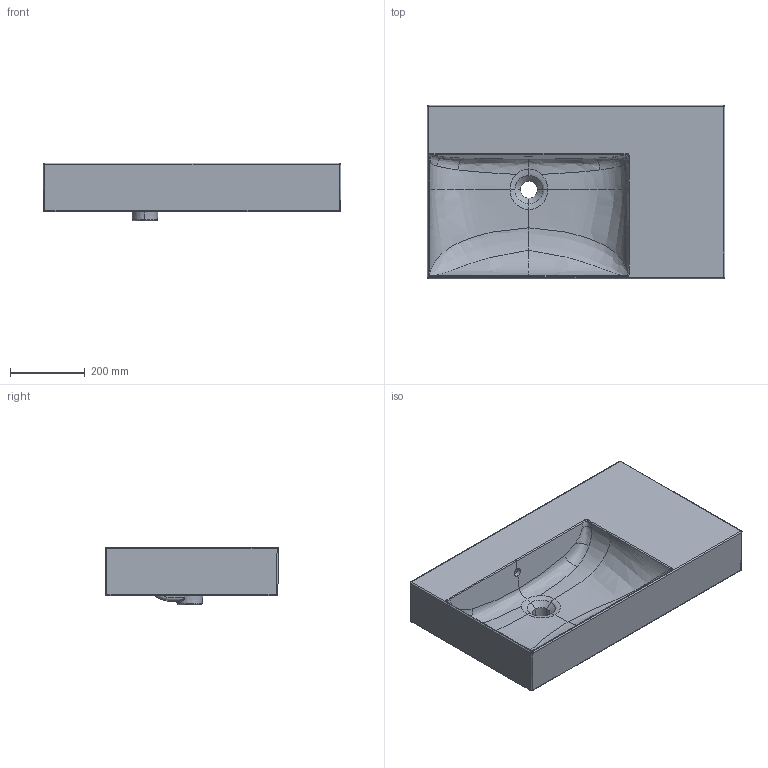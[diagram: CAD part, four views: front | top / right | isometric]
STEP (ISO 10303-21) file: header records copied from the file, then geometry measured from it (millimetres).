
FILE_DESCRIPTION(/* description */ (''),/* implementation_level */ '2;1');
FILE_NAME(/* name */ 'LAVABO_80X46,5DX_GESSO_PROTAP_01_20200916.stp',/* time_stamp */ '2020-10-08T13:36:15+02:00',/* author */ (''),/* organization */ (''),/* preprocessor_version */ 'ST-DEVELOPER v16.7',/* originating_system */ 'SIEMENS PLM Software NX 12.0',/* authorisation */ '');
FILE_SCHEMA (('AUTOMOTIVE_DESIGN { 1 0 10303 214 3 1 1 1 }'));
Products named in the file (1): Bera5A889F5Dvfu9
Bounding box: 799.84 x 464.83 x 155.02 mm (x, y, z)
Volume: 18169039.8 mm3; surface area: 1315275.6 mm2
Topology: 1 solids, 1 shells, 407 faces, 978 edges, 544 vertices
Faces by surface type: bspline 176, cylinder 115, plane 47, sphere 35, torus 22, cone 10, extrusion 2
Full cylindrical faces by diameter (mm): 10 x6, 22 x1, 50 x3
Entity records: 38698 total; most frequent: CARTESIAN_POINT 30750, ORIENTED_EDGE 1868, DIRECTION 1333, EDGE_CURVE 934, AXIS2_PLACEMENT_3D 560, VERTEX_POINT 544, EDGE_LOOP 428, ADVANCED_FACE 407
